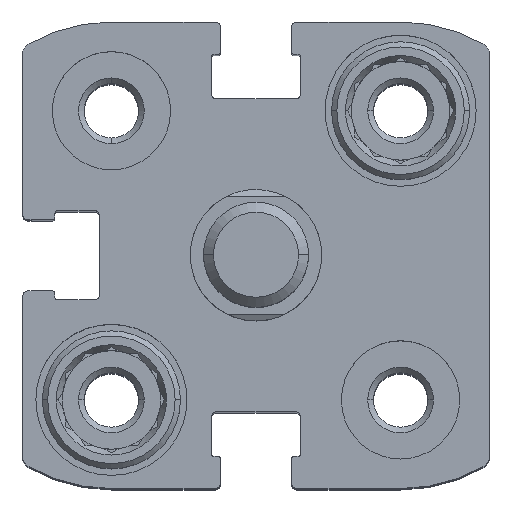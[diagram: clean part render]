
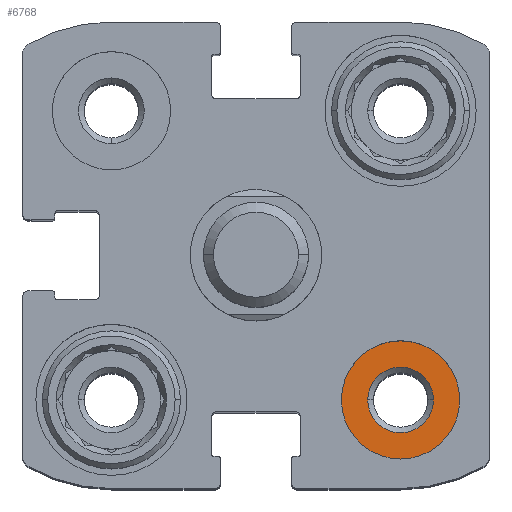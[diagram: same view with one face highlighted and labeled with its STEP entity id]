
A CAD part, top view. The second image highlights one B-rep face of the part: STEP entity #6768.
In plain terms, the highlighted planar face has unit normal (0, 0, 1).
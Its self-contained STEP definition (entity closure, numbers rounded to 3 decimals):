
#664 = PLANE ( 'NONE',  #777 ) ;
#777 = AXIS2_PLACEMENT_3D ( 'NONE', #7814, #12014, #9973 ) ;
#952 = AXIS2_PLACEMENT_3D ( 'NONE', #10744, #6532, #9793 ) ;
#1017 = EDGE_CURVE ( 'NONE', #12356, #12000, #12561, .T. ) ;
#1180 = VERTEX_POINT ( 'NONE', #4188 ) ;
#1347 = EDGE_CURVE ( 'NONE', #1180, #9828, #3170, .T. ) ;
#1946 = DIRECTION ( 'NONE',  ( 0., 0., -1. ) ) ;
#2414 = DIRECTION ( 'NONE',  ( -1., 0., 0. ) ) ;
#2584 = ORIENTED_EDGE ( 'NONE', *, *, #5257, .T. ) ;
#2647 = CIRCLE ( 'NONE', #10236, 2.5 ) ;
#2653 = EDGE_LOOP ( 'NONE', ( #11233, #2584 ) ) ;
#2840 = DIRECTION ( 'NONE',  ( -1., 0., 0. ) ) ;
#3170 = CIRCLE ( 'NONE', #11205, 2.5 ) ;
#3797 = FACE_BOUND ( 'NONE', #2653, .T. ) ;
#3862 = CARTESIAN_POINT ( 'NONE',  ( 11., -11., -4.8 ) ) ;
#4188 = CARTESIAN_POINT ( 'NONE',  ( 13.5, -11., -4.8 ) ) ;
#4321 = DIRECTION ( 'NONE',  ( 0., 0., -1. ) ) ;
#4460 = CARTESIAN_POINT ( 'NONE',  ( 6.5, -11., -4.8 ) ) ;
#4747 = CARTESIAN_POINT ( 'NONE',  ( 15.5, -11., -4.8 ) ) ;
#5257 = EDGE_CURVE ( 'NONE', #9828, #1180, #2647, .T. ) ;
#6532 = DIRECTION ( 'NONE',  ( 0., 0., -1. ) ) ;
#6768 = ADVANCED_FACE ( 'NONE', ( #8756, #3797 ), #664, .T. ) ;
#6818 = CIRCLE ( 'NONE', #952, 4.5 ) ;
#7814 = CARTESIAN_POINT ( 'NONE',  ( 11., -6.5, -4.8 ) ) ;
#7922 = DIRECTION ( 'NONE',  ( 0., 0., -1. ) ) ;
#8733 = DIRECTION ( 'NONE',  ( -1., 0., 0. ) ) ;
#8756 = FACE_OUTER_BOUND ( 'NONE', #11527, .T. ) ;
#8943 = CARTESIAN_POINT ( 'NONE',  ( 11., -11., -4.8 ) ) ;
#9632 = ORIENTED_EDGE ( 'NONE', *, *, #13299, .F. ) ;
#9744 = AXIS2_PLACEMENT_3D ( 'NONE', #3862, #1946, #2840 ) ;
#9793 = DIRECTION ( 'NONE',  ( -1., 0., 0. ) ) ;
#9828 = VERTEX_POINT ( 'NONE', #10632 ) ;
#9973 = DIRECTION ( 'NONE',  ( 1., 0., 0. ) ) ;
#10236 = AXIS2_PLACEMENT_3D ( 'NONE', #12737, #4321, #2414 ) ;
#10632 = CARTESIAN_POINT ( 'NONE',  ( 8.5, -11., -4.8 ) ) ;
#10744 = CARTESIAN_POINT ( 'NONE',  ( 11., -11., -4.8 ) ) ;
#11205 = AXIS2_PLACEMENT_3D ( 'NONE', #8943, #7922, #8733 ) ;
#11233 = ORIENTED_EDGE ( 'NONE', *, *, #1347, .T. ) ;
#11292 = ORIENTED_EDGE ( 'NONE', *, *, #1017, .F. ) ;
#11527 = EDGE_LOOP ( 'NONE', ( #11292, #9632 ) ) ;
#12000 = VERTEX_POINT ( 'NONE', #4747 ) ;
#12014 = DIRECTION ( 'NONE',  ( 0., 0., 1. ) ) ;
#12356 = VERTEX_POINT ( 'NONE', #4460 ) ;
#12561 = CIRCLE ( 'NONE', #9744, 4.5 ) ;
#12737 = CARTESIAN_POINT ( 'NONE',  ( 11., -11., -4.8 ) ) ;
#13299 = EDGE_CURVE ( 'NONE', #12000, #12356, #6818, .T. ) ;
